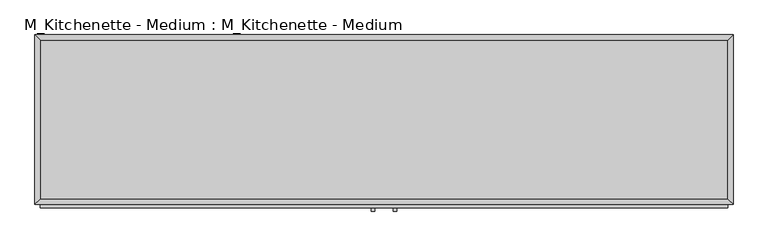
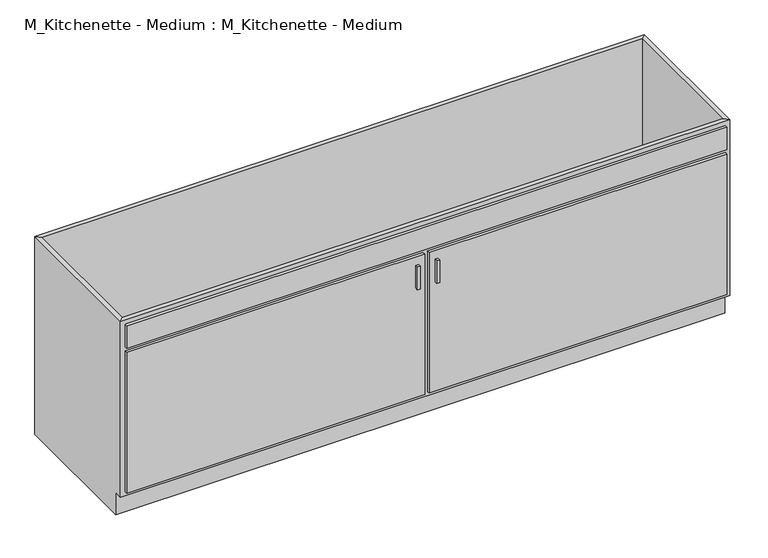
"""IFC4 building model written with IfcOpenShell, lengths in millimetres: proxy geometry, M_Kitchenette - Medium : M_Kitchenette - Medium."""

from ifc_helpers import new_model, si_unit, frame, origin, place, context, project, spatial, polyline, outline, extrude, faceted_brep, source, transform, mapped, element, save


def m_kitchenette_medium_m_kitchenette_medium_3ff942c7(model_context):
    return source(origin(), model_context, "Body", "SolidModel", [
        faceted_brep([(1295.1877049, -610.95, 891.0), (1295.1877049, -610.95, 100.0), (-1257.7122951, -610.95, 100.0), (-1257.7122951, -610.95, 891.0), (-1276.7622951, -630.0, 891.0), (1314.2377049, -630.0, 891.0), (-1276.7622951, -630.0, 100.0), (1314.2377049, -630.0, 100.0), (-1257.7122951, -595.0, 100.0), (-1257.7122951, -19.05, 100.0), (-1257.7122951, -19.05, 891.0), (-1276.7622951, 0.0, 891.0), (-1276.7622951, 0.0, 0.0), (-1276.7622951, -595.0, 0.0), (-1276.7622951, -595.0, 100.0), (1295.1877049, -19.05, 100.0), (1295.1877049, -19.05, 891.0), (1314.2377049, 0.0, 891.0), (1314.2377049, 0.0, 0.0), (1295.1877049, -595.0, 100.0), (1314.2377049, -595.0, 100.0), (1314.2377049, -595.0, 0.0)], [[[0, 1, 2, 3]], [[0, 3, 4, 5]], [[5, 4, 6, 7]], [[2, 1, 7, 6]], [[3, 2, 8, 9, 10]], [[4, 3, 10, 11]], [[6, 4, 11, 12, 13, 14]], [[2, 6, 14, 8]], [[10, 9, 15, 16]], [[11, 10, 16, 17]], [[12, 11, 17, 18]], [[1, 0, 16, 15, 19]], [[0, 5, 17, 16]], [[5, 7, 20, 21, 18, 17]], [[7, 1, 19, 20]], [[8, 19, 15, 9]], [[18, 21, 13, 12]], [[13, 21, 20, 19, 8, 14]]]),
        extrude(outline(polyline([(-16.1872951, -655.4), (-28.8872951, -655.4), (-28.8872951, -642.7), (-16.1872951, -642.7), (-16.1872951, -655.4)])), frame((0.0, 0.0, 611.6), z_axis=(0.0, 0.0, 1.0), x_axis=(1.0, 0.0, 0.0)), (0.0, 0.0, 1.0), 101.6),
        extrude(outline(polyline([(66.3627049, -655.4), (53.6627049, -655.4), (53.6627049, -642.7), (66.3627049, -642.7), (66.3627049, -655.4)])), frame((0.0, 0.0, 611.6), z_axis=(0.0, 0.0, 1.0), x_axis=(1.0, 0.0, 0.0)), (0.0, 0.0, 1.0), 101.6),
        extrude(outline(polyline([(1295.1877049, -19.05), (1295.1877049, -610.95), (-1257.7122951, -610.95), (-1257.7122951, -19.05), (1295.1877049, -19.05)])), frame((0.0, 0.0, 100.0), z_axis=(0.0, 0.0, 1.0), x_axis=(1.0, 0.0, 0.0)), (0.0, 0.0, 1.0), 19.05),
        extrude(outline(polyline([(9.2127049, -642.7), (-1257.7122951, -642.7), (-1257.7122951, -630.0), (9.2127049, -630.0), (9.2127049, -642.7)])), frame((0.0, 0.0, 119.05), z_axis=(0.0, 0.0, 1.0), x_axis=(1.0, 0.0, 0.0)), (0.0, 0.0, 1.0), 632.25),
        extrude(outline(polyline([(1295.1877049, -642.7), (28.2627049, -642.7), (28.2627049, -630.0), (1295.1877049, -630.0), (1295.1877049, -642.7)])), frame((0.0, 0.0, 119.05), z_axis=(0.0, 0.0, 1.0), x_axis=(1.0, 0.0, 0.0)), (0.0, 0.0, 1.0), 632.25),
        extrude(outline(polyline([(1295.1877049, -642.7), (-1257.7122951, -642.7), (-1257.7122951, -630.0), (1295.1877049, -630.0), (1295.1877049, -642.7)])), frame((0.0, 0.0, 770.35), z_axis=(0.0, 0.0, 1.0), x_axis=(1.0, 0.0, 0.0)), (0.0, 0.0, 1.0), 101.6),
    ])


if __name__ == "__main__":
    model = new_model("IFC4")
    model_context = context("Model", 3, world=origin())
    ifc_project = project(units=[si_unit("LENGTHUNIT", "METRE", prefix="MILLI")], contexts=[model_context])
    site = spatial("IfcSite", under=ifc_project)
    building = spatial("IfcBuilding", under=site)
    placement = place(None, origin())
    m_kitchenette_medium_m_kitchenette_medium_shape = m_kitchenette_medium_m_kitchenette_medium_3ff942c7(model_context)
    element("IfcBuildingElementProxy", 1, Name="M_Kitchenette - Medium : M_Kitchenette - Medium", ObjectType="M_Kitchenette - Medium : M_Kitchenette - Medium", at=placement, inside=building, context=model_context, shape_type="MappedRepresentation", body=[
        mapped(m_kitchenette_medium_m_kitchenette_medium_shape, transform((0.0, 0.0, 0.0), x_axis=(1.0, 0.0, 0.0), y_axis=(0.0, 1.0, 0.0), z_axis=(0.0, 0.0, 1.0))),
    ])
    save(model, "model.ifc")
